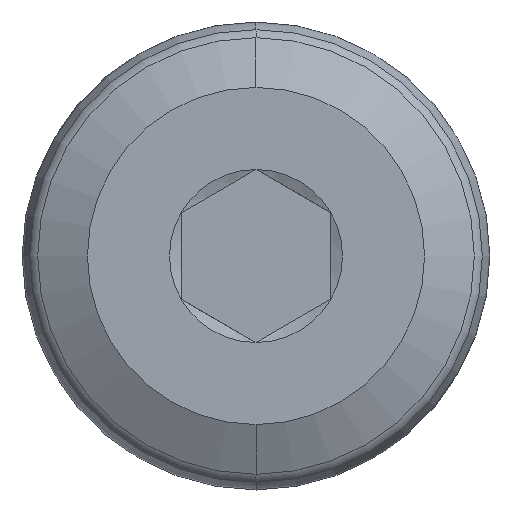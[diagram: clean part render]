
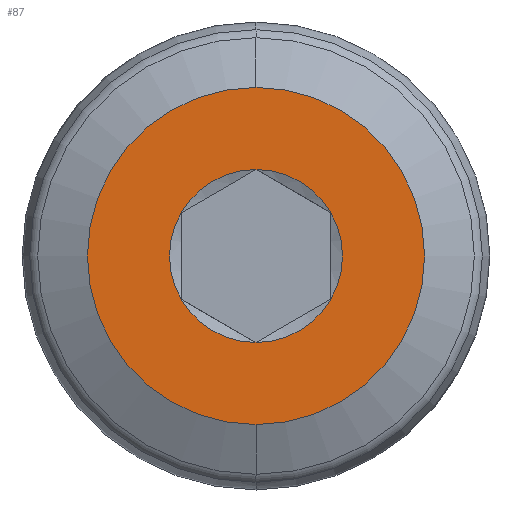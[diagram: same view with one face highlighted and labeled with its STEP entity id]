
A CAD part, left-side view. The second image highlights one B-rep face of the part: STEP entity #87.
In plain terms, the highlighted planar face has unit normal (-1, 0, 0).
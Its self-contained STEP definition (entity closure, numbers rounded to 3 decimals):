
#3 = VERTEX_POINT ( 'NONE', #414 ) ;
#7 = CIRCLE ( 'NONE', #406, 4.5 ) ;
#11 = DIRECTION ( 'NONE',  ( 1., 0., 0. ) ) ;
#50 = DIRECTION ( 'NONE',  ( 1., 0., 0. ) ) ;
#76 = CIRCLE ( 'NONE', #644, 2.309 ) ;
#77 = AXIS2_PLACEMENT_3D ( 'NONE', #83, #740, #661 ) ;
#79 = EDGE_CURVE ( 'NONE', #800, #3, #76, .T. ) ;
#80 = EDGE_LOOP ( 'NONE', ( #706, #117 ) ) ;
#83 = CARTESIAN_POINT ( 'NONE',  ( 0., 0., 0. ) ) ;
#84 = FACE_OUTER_BOUND ( 'NONE', #80, .T. ) ;
#87 = ADVANCED_FACE ( 'NONE', ( #216, #84 ), #736, .T. ) ;
#100 = CARTESIAN_POINT ( 'NONE',  ( 0., 0., 0. ) ) ;
#103 = AXIS2_PLACEMENT_3D ( 'NONE', #411, #400, #351 ) ;
#112 = VERTEX_POINT ( 'NONE', #795 ) ;
#117 = ORIENTED_EDGE ( 'NONE', *, *, #463, .F. ) ;
#127 = CIRCLE ( 'NONE', #798, 2.309 ) ;
#144 = CARTESIAN_POINT ( 'NONE',  ( 0., 0., 0. ) ) ;
#156 = DIRECTION ( 'NONE',  ( 0., 0., -1. ) ) ;
#159 = CIRCLE ( 'NONE', #630, 2.309 ) ;
#173 = CARTESIAN_POINT ( 'NONE',  ( 0., 0., 0. ) ) ;
#183 = EDGE_CURVE ( 'NONE', #471, #362, #159, .T. ) ;
#196 = DIRECTION ( 'NONE',  ( 0., 0., -1. ) ) ;
#214 = CARTESIAN_POINT ( 'NONE',  ( 0., 0., 2.309 ) ) ;
#216 = FACE_BOUND ( 'NONE', #439, .T. ) ;
#221 = VERTEX_POINT ( 'NONE', #817 ) ;
#235 = DIRECTION ( 'NONE',  ( 1., 0., 0. ) ) ;
#236 = VERTEX_POINT ( 'NONE', #437 ) ;
#248 = ORIENTED_EDGE ( 'NONE', *, *, #183, .T. ) ;
#250 = DIRECTION ( 'NONE',  ( 1., 0., 0. ) ) ;
#301 = DIRECTION ( 'NONE',  ( 1., 0., 0. ) ) ;
#332 = ORIENTED_EDGE ( 'NONE', *, *, #770, .T. ) ;
#340 = EDGE_CURVE ( 'NONE', #362, #375, #538, .T. ) ;
#349 = AXIS2_PLACEMENT_3D ( 'NONE', #440, #50, #576 ) ;
#351 = DIRECTION ( 'NONE',  ( 0., 0., 1. ) ) ;
#362 = VERTEX_POINT ( 'NONE', #598 ) ;
#370 = ORIENTED_EDGE ( 'NONE', *, *, #340, .T. ) ;
#375 = VERTEX_POINT ( 'NONE', #214 ) ;
#382 = ORIENTED_EDGE ( 'NONE', *, *, #79, .T. ) ;
#392 = AXIS2_PLACEMENT_3D ( 'NONE', #643, #11, #780 ) ;
#400 = DIRECTION ( 'NONE',  ( -1., 0., 0. ) ) ;
#406 = AXIS2_PLACEMENT_3D ( 'NONE', #511, #301, #567 ) ;
#411 = CARTESIAN_POINT ( 'NONE',  ( 0., 4.5, 0. ) ) ;
#414 = CARTESIAN_POINT ( 'NONE',  ( 0., 0., -2.309 ) ) ;
#423 = CARTESIAN_POINT ( 'NONE',  ( 0., 2., -1.155 ) ) ;
#425 = EDGE_CURVE ( 'NONE', #221, #112, #7, .T. ) ;
#426 = CARTESIAN_POINT ( 'NONE',  ( 0., -2., -1.155 ) ) ;
#437 = CARTESIAN_POINT ( 'NONE',  ( 0., -2., 1.155 ) ) ;
#439 = EDGE_LOOP ( 'NONE', ( #370, #332, #688, #382, #781, #248 ) ) ;
#440 = CARTESIAN_POINT ( 'NONE',  ( 0., 0., 0. ) ) ;
#463 = EDGE_CURVE ( 'NONE', #112, #221, #634, .T. ) ;
#471 = VERTEX_POINT ( 'NONE', #423 ) ;
#511 = CARTESIAN_POINT ( 'NONE',  ( 0., 0., 0. ) ) ;
#532 = CIRCLE ( 'NONE', #392, 2.309 ) ;
#538 = CIRCLE ( 'NONE', #77, 2.309 ) ;
#567 = DIRECTION ( 'NONE',  ( 0., 0., -1. ) ) ;
#568 = DIRECTION ( 'NONE',  ( 1., 0., 0. ) ) ;
#576 = DIRECTION ( 'NONE',  ( 0., 0., -1. ) ) ;
#598 = CARTESIAN_POINT ( 'NONE',  ( 0., 2., 1.155 ) ) ;
#601 = CARTESIAN_POINT ( 'NONE',  ( 0., 0., 0. ) ) ;
#604 = DIRECTION ( 'NONE',  ( 0., 0., -1. ) ) ;
#612 = DIRECTION ( 'NONE',  ( 0., 0., -1. ) ) ;
#630 = AXIS2_PLACEMENT_3D ( 'NONE', #173, #568, #612 ) ;
#634 = CIRCLE ( 'NONE', #349, 4.5 ) ;
#638 = EDGE_CURVE ( 'NONE', #3, #471, #127, .T. ) ;
#643 = CARTESIAN_POINT ( 'NONE',  ( 0., 0., 0. ) ) ;
#644 = AXIS2_PLACEMENT_3D ( 'NONE', #144, #732, #156 ) ;
#661 = DIRECTION ( 'NONE',  ( 0., 0., -1. ) ) ;
#675 = EDGE_CURVE ( 'NONE', #236, #800, #532, .T. ) ;
#688 = ORIENTED_EDGE ( 'NONE', *, *, #675, .T. ) ;
#703 = AXIS2_PLACEMENT_3D ( 'NONE', #100, #235, #604 ) ;
#706 = ORIENTED_EDGE ( 'NONE', *, *, #425, .F. ) ;
#732 = DIRECTION ( 'NONE',  ( 1., 0., 0. ) ) ;
#736 = PLANE ( 'NONE',  #103 ) ;
#740 = DIRECTION ( 'NONE',  ( 1., 0., 0. ) ) ;
#770 = EDGE_CURVE ( 'NONE', #375, #236, #786, .T. ) ;
#780 = DIRECTION ( 'NONE',  ( 0., 0., -1. ) ) ;
#781 = ORIENTED_EDGE ( 'NONE', *, *, #638, .T. ) ;
#786 = CIRCLE ( 'NONE', #703, 2.309 ) ;
#795 = CARTESIAN_POINT ( 'NONE',  ( 0., 0., 4.5 ) ) ;
#798 = AXIS2_PLACEMENT_3D ( 'NONE', #601, #250, #196 ) ;
#800 = VERTEX_POINT ( 'NONE', #426 ) ;
#817 = CARTESIAN_POINT ( 'NONE',  ( 0., 0., -4.5 ) ) ;
